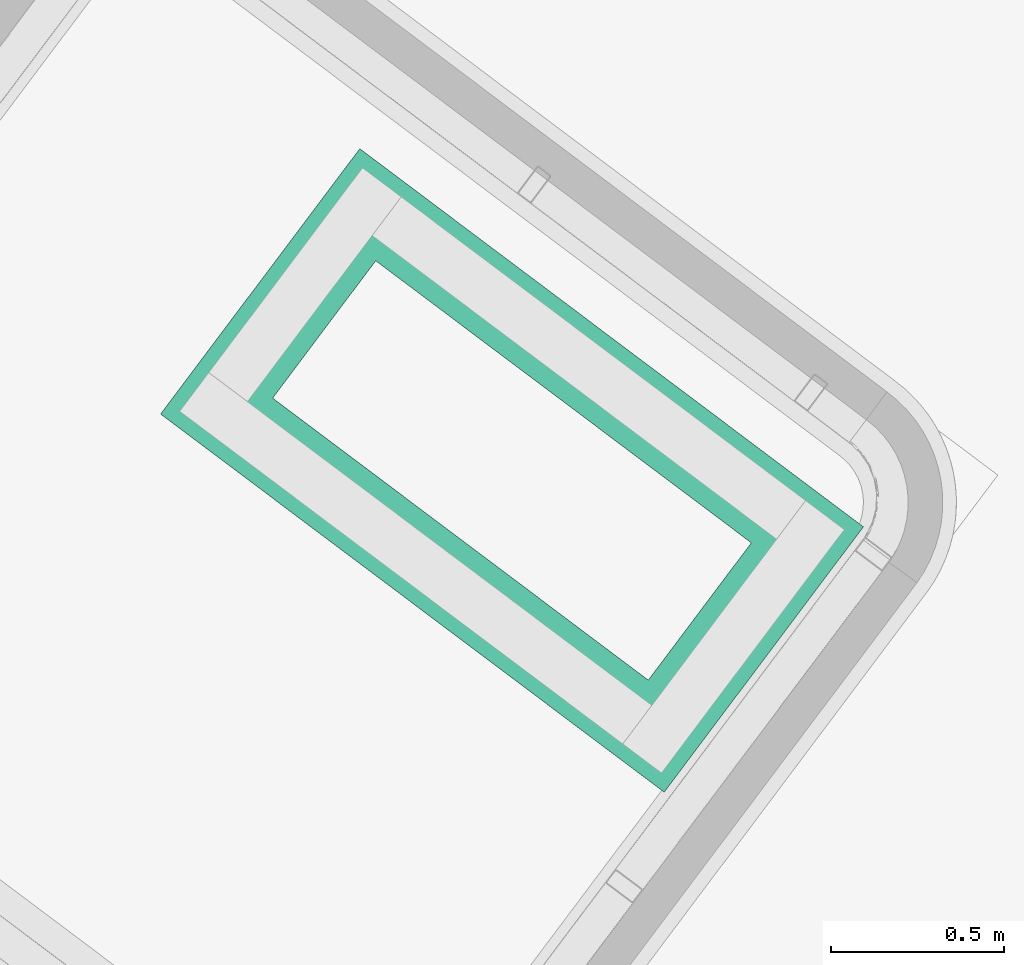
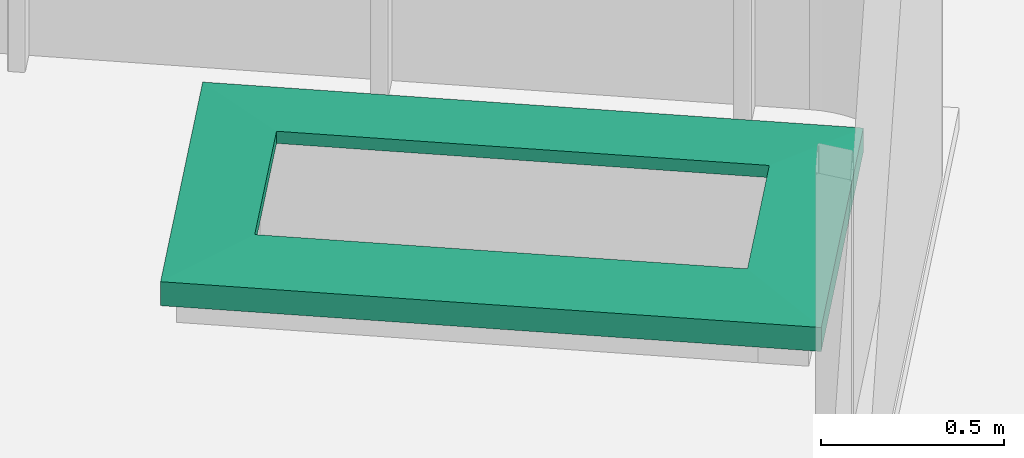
# One storey, part 25 of 28: 1 flow segment.
"""IFC2X3 building model written with IfcOpenShell, lengths in metres."""

from ifc_helpers import new_model, entity, si_unit, converted_unit, derived_unit, direction, frame, origin, place, context, subcontext, project, spatial, faceted_brep, source, transform, mapped, type_object, type_shapes, element, save


model = new_model("IFC2X3")

# Units and contexts
model_context = context("Model", 3, precision=1e-05, world=origin(), true_north=direction((6.123031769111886e-17, 1.0)))
body_context = subcontext(model_context, "Body", "Model", "MODEL_VIEW")
ifc_project = project(units=[si_unit("LENGTHUNIT", "METRE"), si_unit("AREAUNIT", "SQUARE_METRE"), si_unit("VOLUMEUNIT", "CUBIC_METRE"), converted_unit("PLANEANGLEUNIT", "DEGREE", entity("IfcRatioMeasure", 0.017453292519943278), si_unit("PLANEANGLEUNIT", "RADIAN"), dimensions=[0, 0, 0, 0, 0, 0, 0]), si_unit("MASSUNIT", "GRAM", prefix="KILO"), derived_unit("MASSDENSITYUNIT", [(si_unit("MASSUNIT", "GRAM", prefix="KILO"), 1), (si_unit("LENGTHUNIT", "METRE"), -3)]), derived_unit("IONCONCENTRATIONUNIT", [(si_unit("MASSUNIT", "GRAM", prefix="KILO"), 1), (si_unit("LENGTHUNIT", "METRE"), -3)]), derived_unit("MOMENTOFINERTIAUNIT", [(si_unit("LENGTHUNIT", "METRE"), 4)]), si_unit("TIMEUNIT", "SECOND"), si_unit("FREQUENCYUNIT", "HERTZ"), si_unit("THERMODYNAMICTEMPERATUREUNIT", "DEGREE_CELSIUS"), derived_unit("THERMALTRANSMITTANCEUNIT", [(si_unit("MASSUNIT", "GRAM", prefix="KILO"), 1), (si_unit("THERMODYNAMICTEMPERATUREUNIT", "KELVIN"), -1), (si_unit("TIMEUNIT", "SECOND"), -3)]), derived_unit("THERMALCONDUCTANCEUNIT", [(si_unit("MASSUNIT", "GRAM", prefix="KILO"), 1), (si_unit("THERMODYNAMICTEMPERATUREUNIT", "KELVIN"), -1), (si_unit("TIMEUNIT", "SECOND"), -3), (si_unit("LENGTHUNIT", "METRE"), 1)]), derived_unit("VOLUMETRICFLOWRATEUNIT", [(si_unit("LENGTHUNIT", "METRE"), 3), (si_unit("TIMEUNIT", "SECOND"), -1)]), derived_unit("MASSFLOWRATEUNIT", [(si_unit("MASSUNIT", "GRAM", prefix="KILO"), 1), (si_unit("TIMEUNIT", "SECOND"), -1)]), derived_unit("ROTATIONALFREQUENCYUNIT", [(si_unit("TIMEUNIT", "SECOND"), -1)]), si_unit("ELECTRICCURRENTUNIT", "AMPERE"), si_unit("ELECTRICVOLTAGEUNIT", "VOLT"), si_unit("POWERUNIT", "WATT"), si_unit("FORCEUNIT", "NEWTON", prefix="KILO"), si_unit("ILLUMINANCEUNIT", "LUX"), si_unit("LUMINOUSFLUXUNIT", "LUMEN"), si_unit("LUMINOUSINTENSITYUNIT", "CANDELA"), derived_unit("USERDEFINED", [(si_unit("MASSUNIT", "GRAM", prefix="KILO"), -1), (si_unit("LENGTHUNIT", "METRE"), -2), (si_unit("TIMEUNIT", "SECOND"), 3), (si_unit("LUMINOUSFLUXUNIT", "LUMEN"), 1)]), derived_unit("USERDEFINED", [(si_unit("MASSUNIT", "GRAM", prefix="KILO"), 1), (si_unit("TIMEUNIT", "SECOND"), -3), (si_unit("LENGTHUNIT", "METRE"), 3), (si_unit("ELECTRICCURRENTUNIT", "AMPERE"), -2)]), derived_unit("SOUNDPOWERUNIT", [(si_unit("MASSUNIT", "GRAM", prefix="KILO"), 1), (si_unit("TIMEUNIT", "SECOND"), -3), (si_unit("LENGTHUNIT", "METRE"), 2)]), derived_unit("SOUNDPRESSUREUNIT", [(si_unit("MASSUNIT", "GRAM", prefix="KILO"), 1), (si_unit("LENGTHUNIT", "METRE"), -1), (si_unit("TIMEUNIT", "SECOND"), -2)]), derived_unit("LINEARVELOCITYUNIT", [(si_unit("LENGTHUNIT", "METRE"), 1), (si_unit("TIMEUNIT", "SECOND"), -1)]), si_unit("PRESSUREUNIT", "PASCAL"), derived_unit("USERDEFINED", [(si_unit("MASSUNIT", "GRAM", prefix="KILO"), 1), (si_unit("LENGTHUNIT", "METRE"), -2), (si_unit("TIMEUNIT", "SECOND"), -2)]), derived_unit("LINEARFORCEUNIT", [(si_unit("MASSUNIT", "GRAM", prefix="KILO"), 1), (si_unit("TIMEUNIT", "SECOND"), -2)]), derived_unit("PLANARFORCEUNIT", [(si_unit("MASSUNIT", "GRAM", prefix="KILO"), 1), (si_unit("LENGTHUNIT", "METRE"), -1), (si_unit("TIMEUNIT", "SECOND"), -2)]), derived_unit("SPECIFICHEATCAPACITYUNIT", [(si_unit("THERMODYNAMICTEMPERATUREUNIT", "KELVIN"), -1), (si_unit("LENGTHUNIT", "METRE"), 2), (si_unit("TIMEUNIT", "SECOND"), -2)]), derived_unit("HEATINGVALUEUNIT", [(si_unit("LENGTHUNIT", "METRE"), 2), (si_unit("TIMEUNIT", "SECOND"), -2)]), derived_unit("VAPORPERMEABILITYUNIT", [(si_unit("LENGTHUNIT", "METRE"), -1), (si_unit("TIMEUNIT", "SECOND"), 1)]), derived_unit("DYNAMICVISCOSITYUNIT", [(si_unit("MASSUNIT", "GRAM", prefix="KILO"), 1), (si_unit("TIMEUNIT", "SECOND"), -1), (si_unit("LENGTHUNIT", "METRE"), -1)]), derived_unit("THERMALEXPANSIONCOEFFICIENTUNIT", [(si_unit("THERMODYNAMICTEMPERATUREUNIT", "KELVIN"), -1)]), derived_unit("MODULUSOFELASTICITYUNIT", [(si_unit("MASSUNIT", "GRAM", prefix="KILO"), 1), (si_unit("LENGTHUNIT", "METRE"), -1), (si_unit("TIMEUNIT", "SECOND"), -2)]), derived_unit("ISOTHERMALMOISTURECAPACITYUNIT", [(si_unit("LENGTHUNIT", "METRE"), 3), (si_unit("MASSUNIT", "GRAM", prefix="KILO"), -1)]), derived_unit("MOISTUREDIFFUSIVITYUNIT", [(si_unit("TIMEUNIT", "SECOND"), -1), (si_unit("LENGTHUNIT", "METRE"), 2)])], contexts=[model_context])

# Site, building, storey
site_placement = place(None, frame((0.0, 0.0, 235.0), z_axis=(0.0, 0.0, 1.0), x_axis=(-0.7996477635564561, 0.6004693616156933, 0.0)))
site = spatial("IfcSite", under=ifc_project, at=site_placement, Name="Default", CompositionType="ELEMENT")
building_placement = place(site_placement, origin())
building = spatial("IfcBuilding", under=site, at=building_placement, CompositionType="ELEMENT")
storey_placement = place(building_placement, frame((0.0, 0.0, 3.400000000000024)))
storey = spatial("IfcBuildingStorey", under=building, at=storey_placement, Name="PC- Coberta STR", CompositionType="ELEMENT", Elevation=3.400000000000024)

# Flow segment
pipe_segment_type = type_object("IfcPipeSegmentType", Name="Canalón:COB- Remat xapa coberta- Remats 15 cm", PredefinedType="GUTTER")
shared_shape = source(origin(), body_context, "Body", "Brep", [
    faceted_brep([(0.017320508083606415, 0.017320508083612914, 0.010000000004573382), (0.0, 0.0, 0.0), (0.0, 0.9586413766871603, 0.0), (0.017320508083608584, 0.9413208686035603, 0.010000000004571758), (0.016320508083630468, 0.016320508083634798, 0.011732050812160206), (0.016320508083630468, 0.9423208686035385, 0.011732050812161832), (0.00200000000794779, 0.0020000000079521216, 0.0034641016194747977), (0.0020000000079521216, 0.9566413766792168, 0.0034641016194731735), (0.0020000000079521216, 0.002000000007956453, 0.07809750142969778), (0.0020000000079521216, 0.9566413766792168, 0.07809750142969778), (0.22932068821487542, 0.22932068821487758, 0.09393184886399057), (0.22932068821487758, 0.729320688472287, 0.09393184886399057), (0.0, 0.0, 0.08000000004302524), (0.23132068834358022, 0.23132068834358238, 0.09606336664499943), (0.23132068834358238, 0.7273206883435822, 0.09606336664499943), (0.0, 0.9586413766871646, 0.0800000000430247), (1.8197429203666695, 0.9586413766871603, 0.0), (1.8024224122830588, 0.9413208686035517, 0.010000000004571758), (1.803422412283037, 0.9423208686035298, 0.011732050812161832), (1.8177429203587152, 0.9566413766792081, 0.0034641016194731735), (1.8177429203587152, 0.9566413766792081, 0.07809750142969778), (1.5904222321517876, 0.7293206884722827, 0.09393184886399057), (1.5884222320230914, 0.7273206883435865, 0.09606336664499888), (1.819742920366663, 0.958641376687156, 0.0800000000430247), (1.8197429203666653, 0.0, 0.0), (1.8024224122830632, 0.01732050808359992, 0.010000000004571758), (1.8034224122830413, 0.016320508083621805, 0.011732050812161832), (1.8177429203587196, 0.0020000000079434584, 0.0034641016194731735), (1.8177429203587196, 0.0020000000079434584, 0.07809750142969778), (1.5904222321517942, 0.22932068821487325, 0.09393184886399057), (1.5884222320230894, 0.23132068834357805, 0.09606336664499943), (1.8197429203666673, 0.0, 0.0800000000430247), (1.5904222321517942, 0.22932068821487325, 0.058923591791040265), (0.2293206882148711, 0.22932068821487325, 0.058923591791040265), (1.6047427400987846, 0.21500018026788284, 0.06719154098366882), (0.215000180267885, 0.21500018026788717, 0.06719154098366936), (1.6057427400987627, 0.2140001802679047, 0.06545949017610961), (0.21400018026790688, 0.21400018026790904, 0.06545949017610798), (1.5884222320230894, 0.23132068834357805, 0.05545949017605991), (0.23132068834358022, 0.23132068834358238, 0.05545949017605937), (0.22932068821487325, 0.7293206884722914, 0.058923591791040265), (0.21500018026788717, 0.7436411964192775, 0.06719154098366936), (0.21400018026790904, 0.7446411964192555, 0.06545949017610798), (0.23132068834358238, 0.7273206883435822, 0.05545949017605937), (1.590422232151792, 0.729320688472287, 0.058923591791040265), (1.6047427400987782, 0.7436411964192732, 0.06719154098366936), (1.605742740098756, 0.7446411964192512, 0.06545949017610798), (1.5884222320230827, 0.7273206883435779, 0.05545949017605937)], [[[0, 1, 2, 3]], [[4, 0, 3, 5]], [[6, 4, 5, 7]], [[8, 6, 7, 9]], [[10, 8, 9, 11]], [[12, 13, 14, 15]], [[1, 12, 15, 2]], [[3, 2, 16, 17]], [[5, 3, 17, 18]], [[7, 5, 18, 19]], [[9, 7, 19, 20]], [[11, 9, 20, 21]], [[15, 14, 22, 23]], [[2, 15, 23, 16]], [[17, 16, 24, 25]], [[18, 17, 25, 26]], [[19, 18, 26, 27]], [[20, 19, 27, 28]], [[21, 20, 28, 29]], [[23, 22, 30, 31]], [[16, 23, 31, 24]], [[25, 24, 1, 0]], [[26, 25, 0, 4]], [[27, 26, 4, 6]], [[28, 27, 6, 8]], [[29, 28, 8, 10]], [[31, 30, 13, 12]], [[24, 31, 12, 1]], [[32, 29, 10, 33]], [[34, 32, 33, 35]], [[36, 34, 35, 37]], [[38, 36, 37, 39]], [[30, 38, 39, 13]], [[33, 10, 11, 40]], [[35, 33, 40, 41]], [[37, 35, 41, 42]], [[39, 37, 42, 43]], [[13, 39, 43, 14]], [[40, 11, 21, 44]], [[41, 40, 44, 45]], [[42, 41, 45, 46]], [[43, 42, 46, 47]], [[14, 43, 47, 22]], [[44, 21, 29, 32]], [[45, 44, 32, 34]], [[46, 45, 34, 36]], [[47, 46, 36, 38]], [[22, 47, 38, 30]]]),
])
type_shapes(pipe_segment_type, [shared_shape])
flow_segment_placement = place(storey_placement, frame((15.93072544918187, -37.33951063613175, 0.4494616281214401)))
element("IfcFlowSegment", 1, at=flow_segment_placement, inside=storey, type_object=pipe_segment_type, Name="Canalón:COB- Remat xapa coberta- Remats 15 cm", ObjectType="Canalón:COB- Remat xapa coberta- Remats 15 cm", context=body_context, shape_type="MappedRepresentation", body=[
    mapped(shared_shape, transform((0.0, 0.0, 0.0), scale=1.0)),
])

save(model, "model.ifc")
